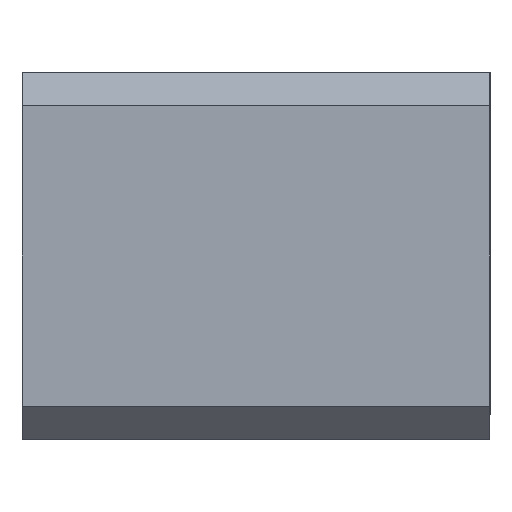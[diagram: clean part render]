
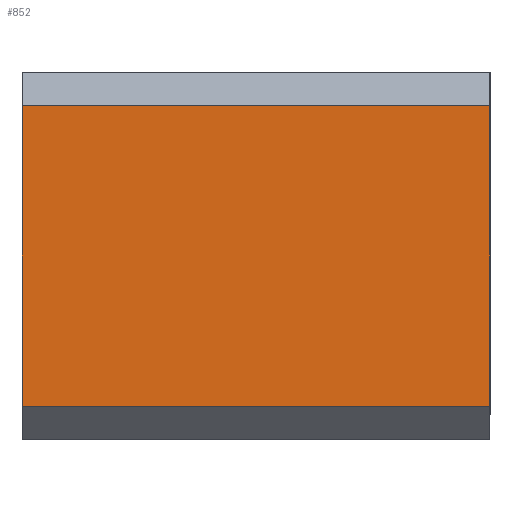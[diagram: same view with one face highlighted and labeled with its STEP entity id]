
A CAD part, left-side view. The second image highlights one B-rep face of the part: STEP entity #852.
In plain terms, the highlighted planar face has unit normal (-1, 0, 0).
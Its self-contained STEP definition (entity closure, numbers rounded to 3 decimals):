
#66=FACE_OUTER_BOUND('',#114,.T.);
#114=EDGE_LOOP('',(#727,#728,#729,#730));
#151=LINE('',#1192,#261);
#160=LINE('',#1219,#270);
#228=LINE('',#1360,#338);
#229=LINE('',#1362,#339);
#261=VECTOR('',#959,10.);
#270=VECTOR('',#980,10.);
#338=VECTOR('',#1102,10.);
#339=VECTOR('',#1105,10.);
#367=VERTEX_POINT('',#1189);
#368=VERTEX_POINT('',#1191);
#379=VERTEX_POINT('',#1216);
#380=VERTEX_POINT('',#1218);
#449=EDGE_CURVE('',#368,#367,#151,.F.);
#462=EDGE_CURVE('',#380,#379,#160,.T.);
#536=EDGE_CURVE('',#380,#367,#228,.T.);
#537=EDGE_CURVE('',#368,#379,#229,.T.);
#727=ORIENTED_EDGE('',*,*,#537,.F.);
#728=ORIENTED_EDGE('',*,*,#449,.T.);
#729=ORIENTED_EDGE('',*,*,#536,.F.);
#730=ORIENTED_EDGE('',*,*,#462,.T.);
#808=PLANE('',#908);
#852=ADVANCED_FACE('',(#66),#808,.T.);
#908=AXIS2_PLACEMENT_3D('',#1361,#1103,#1104);
#959=DIRECTION('',(0.,0.,1.));
#980=DIRECTION('',(0.,0.,1.));
#1102=DIRECTION('',(0.,1.,0.));
#1103=DIRECTION('center_axis',(-1.,0.,0.));
#1104=DIRECTION('ref_axis',(0.,0.,1.));
#1105=DIRECTION('',(0.,-1.,0.));
#1189=CARTESIAN_POINT('',(26.068,-2.718,1.588));
#1191=CARTESIAN_POINT('',(26.068,-2.718,10.589));
#1192=CARTESIAN_POINT('',(26.068,-2.718,3.874));
#1216=CARTESIAN_POINT('',(26.068,-16.718,10.589));
#1218=CARTESIAN_POINT('',(26.068,-16.718,1.588));
#1219=CARTESIAN_POINT('',(26.068,-16.718,3.874));
#1360=CARTESIAN_POINT('',(26.068,-13.318,1.588));
#1361=CARTESIAN_POINT('Origin',(26.068,-23.318,2.083));
#1362=CARTESIAN_POINT('',(26.068,-16.068,10.589));
